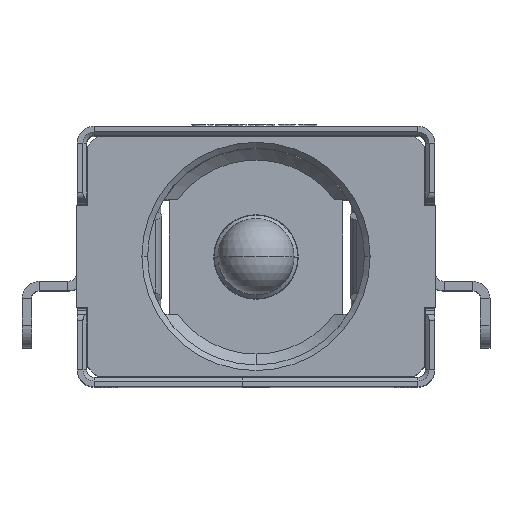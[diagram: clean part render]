
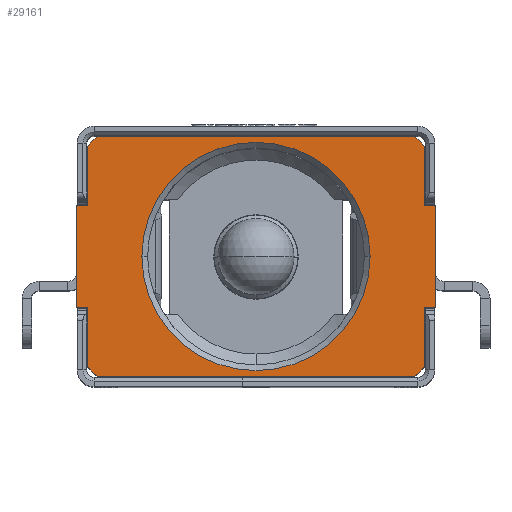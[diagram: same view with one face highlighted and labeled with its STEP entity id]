
A CAD part, top view. The second image highlights one B-rep face of the part: STEP entity #29161.
In plain terms, the highlighted planar face has unit normal (0, 0, 1).
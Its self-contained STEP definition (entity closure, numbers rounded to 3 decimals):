
#243 = VECTOR ( 'NONE', #29874, 1000. ) ;
#244 = ORIENTED_EDGE ( 'NONE', *, *, #4798, .T. ) ;
#558 = EDGE_CURVE ( 'NONE', #5908, #7151, #29264, .T. ) ;
#594 = ORIENTED_EDGE ( 'NONE', *, *, #27109, .F. ) ;
#1053 = VECTOR ( 'NONE', #27258, 1000. ) ;
#1555 = LINE ( 'NONE', #24870, #33075 ) ;
#1866 = DIRECTION ( 'NONE',  ( -0.707, -0.707, 0. ) ) ;
#2493 = DIRECTION ( 'NONE',  ( -0.707, 0.707, 0. ) ) ;
#2607 = CARTESIAN_POINT ( 'NONE',  ( -4.425, -1.35, 14. ) ) ;
#2699 = DIRECTION ( 'NONE',  ( 1., 0., 0. ) ) ;
#3333 = VECTOR ( 'NONE', #1866, 1000. ) ;
#4222 = VERTEX_POINT ( 'NONE', #14461 ) ;
#4388 = DIRECTION ( 'NONE',  ( 1., 0., 0. ) ) ;
#4462 = ORIENTED_EDGE ( 'NONE', *, *, #16440, .T. ) ;
#4562 = CARTESIAN_POINT ( 'NONE',  ( 3., 0., 14. ) ) ;
#4587 = CARTESIAN_POINT ( 'NONE',  ( -4.425, 2.9, 14. ) ) ;
#4764 = EDGE_CURVE ( 'NONE', #16847, #4932, #17666, .T. ) ;
#4798 = EDGE_CURVE ( 'NONE', #33920, #11057, #7460, .T. ) ;
#4838 = EDGE_CURVE ( 'NONE', #4932, #22869, #10730, .T. ) ;
#4932 = VERTEX_POINT ( 'NONE', #28847 ) ;
#5055 = VERTEX_POINT ( 'NONE', #7222 ) ;
#5144 = DIRECTION ( 'NONE',  ( 0., -1., 0. ) ) ;
#5217 = ORIENTED_EDGE ( 'NONE', *, *, #21973, .F. ) ;
#5694 = EDGE_CURVE ( 'NONE', #32092, #8655, #20918, .T. ) ;
#5908 = VERTEX_POINT ( 'NONE', #29703 ) ;
#6009 = LINE ( 'NONE', #16533, #25876 ) ;
#6084 = ORIENTED_EDGE ( 'NONE', *, *, #29990, .T. ) ;
#6436 = DIRECTION ( 'NONE',  ( 0., 0., 1. ) ) ;
#7151 = VERTEX_POINT ( 'NONE', #31233 ) ;
#7158 = LINE ( 'NONE', #14934, #26970 ) ;
#7185 = DIRECTION ( 'NONE',  ( -1., 0., 0. ) ) ;
#7222 = CARTESIAN_POINT ( 'NONE',  ( 4.425, 2.9, 14. ) ) ;
#7460 = LINE ( 'NONE', #28508, #17587 ) ;
#7747 = ORIENTED_EDGE ( 'NONE', *, *, #4764, .T. ) ;
#8021 = LINE ( 'NONE', #31836, #17921 ) ;
#8465 = VERTEX_POINT ( 'NONE', #21071 ) ;
#8655 = VERTEX_POINT ( 'NONE', #8824 ) ;
#8773 = AXIS2_PLACEMENT_3D ( 'NONE', #20352, #18272, #28792 ) ;
#8823 = CARTESIAN_POINT ( 'NONE',  ( -4.725, 1.35, 14. ) ) ;
#8824 = CARTESIAN_POINT ( 'NONE',  ( -4.725, 1.35, 14. ) ) ;
#8938 = DIRECTION ( 'NONE',  ( 0., 0., 1. ) ) ;
#9029 = CARTESIAN_POINT ( 'NONE',  ( 4.425, -2.9, 14. ) ) ;
#9181 = DIRECTION ( 'NONE',  ( 1., 0., 0. ) ) ;
#9291 = ORIENTED_EDGE ( 'NONE', *, *, #14862, .T. ) ;
#9321 = CARTESIAN_POINT ( 'NONE',  ( -4.425, -2.9, 14. ) ) ;
#9467 = ORIENTED_EDGE ( 'NONE', *, *, #30653, .F. ) ;
#10272 = EDGE_CURVE ( 'NONE', #8465, #11841, #11733, .T. ) ;
#10300 = CARTESIAN_POINT ( 'NONE',  ( -4.425, 2.9, 14. ) ) ;
#10383 = DIRECTION ( 'NONE',  ( -1., 0., 0. ) ) ;
#10730 = LINE ( 'NONE', #2607, #1053 ) ;
#10907 = DIRECTION ( 'NONE',  ( -1., 0., 0. ) ) ;
#10940 = VERTEX_POINT ( 'NONE', #29747 ) ;
#10944 = ORIENTED_EDGE ( 'NONE', *, *, #26954, .T. ) ;
#10984 = VERTEX_POINT ( 'NONE', #4562 ) ;
#11057 = VERTEX_POINT ( 'NONE', #21907 ) ;
#11433 = AXIS2_PLACEMENT_3D ( 'NONE', #32588, #8938, #30497 ) ;
#11646 = VECTOR ( 'NONE', #5144, 1000. ) ;
#11715 = ORIENTED_EDGE ( 'NONE', *, *, #22956, .T. ) ;
#11733 = LINE ( 'NONE', #25510, #3333 ) ;
#11841 = VERTEX_POINT ( 'NONE', #21422 ) ;
#11992 = ORIENTED_EDGE ( 'NONE', *, *, #24046, .T. ) ;
#12083 = CARTESIAN_POINT ( 'NONE',  ( -4.725, -1.35, 14. ) ) ;
#12270 = LINE ( 'NONE', #28629, #20066 ) ;
#13087 = DIRECTION ( 'NONE',  ( 0.707, -0.707, 0. ) ) ;
#14433 = EDGE_LOOP ( 'NONE', ( #9291, #18343, #25355, #7747, #30387, #17333, #10944, #22446, #11992, #14519, #6084, #4462, #11715, #9467, #244, #26399 ) ) ;
#14461 = CARTESIAN_POINT ( 'NONE',  ( 4.425, 1.35, 14. ) ) ;
#14519 = ORIENTED_EDGE ( 'NONE', *, *, #558, .T. ) ;
#14761 = DIRECTION ( 'NONE',  ( 0.707, 0.707, 0. ) ) ;
#14779 = CARTESIAN_POINT ( 'NONE',  ( 4.725, 1.35, 14. ) ) ;
#14862 = EDGE_CURVE ( 'NONE', #20288, #32092, #33775, .T. ) ;
#14934 = CARTESIAN_POINT ( 'NONE',  ( 4.725, -1.35, 14. ) ) ;
#15929 = CARTESIAN_POINT ( 'NONE',  ( 4.175, 3.15, 14. ) ) ;
#16440 = EDGE_CURVE ( 'NONE', #20141, #4222, #23382, .T. ) ;
#16533 = CARTESIAN_POINT ( 'NONE',  ( -4.175, -3.15, 14. ) ) ;
#16847 = VERTEX_POINT ( 'NONE', #12083 ) ;
#17333 = ORIENTED_EDGE ( 'NONE', *, *, #32460, .F. ) ;
#17587 = VECTOR ( 'NONE', #10383, 1000. ) ;
#17666 = LINE ( 'NONE', #28196, #31339 ) ;
#17921 = VECTOR ( 'NONE', #2493, 1000. ) ;
#17954 = VECTOR ( 'NONE', #2699, 1000. ) ;
#18016 = LINE ( 'NONE', #4587, #21967 ) ;
#18272 = DIRECTION ( 'NONE',  ( 0., 0., 1. ) ) ;
#18343 = ORIENTED_EDGE ( 'NONE', *, *, #5694, .T. ) ;
#19447 = EDGE_LOOP ( 'NONE', ( #5217, #594 ) ) ;
#19550 = FACE_OUTER_BOUND ( 'NONE', #14433, .T. ) ;
#20066 = VECTOR ( 'NONE', #13087, 1000. ) ;
#20141 = VERTEX_POINT ( 'NONE', #14779 ) ;
#20288 = VERTEX_POINT ( 'NONE', #24047 ) ;
#20352 = CARTESIAN_POINT ( 'NONE',  ( 0., 0., 14. ) ) ;
#20918 = LINE ( 'NONE', #31453, #22426 ) ;
#21016 = VERTEX_POINT ( 'NONE', #31577 ) ;
#21071 = CARTESIAN_POINT ( 'NONE',  ( 4.425, -2.9, 14. ) ) ;
#21312 = CIRCLE ( 'NONE', #11433, 3. ) ;
#21422 = CARTESIAN_POINT ( 'NONE',  ( 4.175, -3.15, 14. ) ) ;
#21907 = CARTESIAN_POINT ( 'NONE',  ( -4.175, 3.15, 14. ) ) ;
#21967 = VECTOR ( 'NONE', #14761, 1000. ) ;
#21973 = EDGE_CURVE ( 'NONE', #10984, #21016, #33022, .T. ) ;
#22426 = VECTOR ( 'NONE', #10907, 1000. ) ;
#22446 = ORIENTED_EDGE ( 'NONE', *, *, #10272, .F. ) ;
#22869 = VERTEX_POINT ( 'NONE', #9321 ) ;
#22892 = CARTESIAN_POINT ( 'NONE',  ( 4.725, 1.35, 14. ) ) ;
#22956 = EDGE_CURVE ( 'NONE', #4222, #5055, #1555, .T. ) ;
#23382 = LINE ( 'NONE', #22892, #33800 ) ;
#23389 = CARTESIAN_POINT ( 'NONE',  ( -4.425, 1.35, 14. ) ) ;
#23630 = AXIS2_PLACEMENT_3D ( 'NONE', #32830, #6436, #9181 ) ;
#23783 = EDGE_CURVE ( 'NONE', #20288, #11057, #18016, .T. ) ;
#24046 = EDGE_CURVE ( 'NONE', #8465, #5908, #29915, .T. ) ;
#24047 = CARTESIAN_POINT ( 'NONE',  ( -4.425, 2.9, 14. ) ) ;
#24870 = CARTESIAN_POINT ( 'NONE',  ( 4.425, 1.35, 14. ) ) ;
#24916 = DIRECTION ( 'NONE',  ( 0., 1., 0. ) ) ;
#25355 = ORIENTED_EDGE ( 'NONE', *, *, #31619, .T. ) ;
#25510 = CARTESIAN_POINT ( 'NONE',  ( 4.425, -2.9, 14. ) ) ;
#25876 = VECTOR ( 'NONE', #26719, 1000. ) ;
#26399 = ORIENTED_EDGE ( 'NONE', *, *, #23783, .F. ) ;
#26719 = DIRECTION ( 'NONE',  ( 1., 0., 0. ) ) ;
#26954 = EDGE_CURVE ( 'NONE', #10940, #11841, #6009, .T. ) ;
#26970 = VECTOR ( 'NONE', #30458, 1000. ) ;
#27109 = EDGE_CURVE ( 'NONE', #21016, #10984, #21312, .T. ) ;
#27258 = DIRECTION ( 'NONE',  ( 0., -1., 0. ) ) ;
#28196 = CARTESIAN_POINT ( 'NONE',  ( -4.725, -1.35, 14. ) ) ;
#28508 = CARTESIAN_POINT ( 'NONE',  ( 4.175, 3.15, 14. ) ) ;
#28629 = CARTESIAN_POINT ( 'NONE',  ( 4.175, 3.15, 14. ) ) ;
#28792 = DIRECTION ( 'NONE',  ( 1., 0., 0. ) ) ;
#28847 = CARTESIAN_POINT ( 'NONE',  ( -4.425, -1.35, 14. ) ) ;
#29161 = ADVANCED_FACE ( 'NONE', ( #33000, #19550 ), #30068, .T. ) ;
#29264 = LINE ( 'NONE', #34109, #17954 ) ;
#29703 = CARTESIAN_POINT ( 'NONE',  ( 4.425, -1.35, 14. ) ) ;
#29747 = CARTESIAN_POINT ( 'NONE',  ( -4.175, -3.15, 14. ) ) ;
#29874 = DIRECTION ( 'NONE',  ( 0., -1., 0. ) ) ;
#29915 = LINE ( 'NONE', #9029, #34090 ) ;
#29990 = EDGE_CURVE ( 'NONE', #7151, #20141, #7158, .T. ) ;
#30068 = PLANE ( 'NONE',  #23630 ) ;
#30387 = ORIENTED_EDGE ( 'NONE', *, *, #4838, .T. ) ;
#30458 = DIRECTION ( 'NONE',  ( 0., 1., 0. ) ) ;
#30497 = DIRECTION ( 'NONE',  ( -1., 0., 0. ) ) ;
#30653 = EDGE_CURVE ( 'NONE', #33920, #5055, #12270, .T. ) ;
#31233 = CARTESIAN_POINT ( 'NONE',  ( 4.725, -1.35, 14. ) ) ;
#31339 = VECTOR ( 'NONE', #4388, 1000. ) ;
#31453 = CARTESIAN_POINT ( 'NONE',  ( -4.425, 1.35, 14. ) ) ;
#31577 = CARTESIAN_POINT ( 'NONE',  ( -3., 0., 14. ) ) ;
#31619 = EDGE_CURVE ( 'NONE', #8655, #16847, #32465, .T. ) ;
#31836 = CARTESIAN_POINT ( 'NONE',  ( -4.175, -3.15, 14. ) ) ;
#32092 = VERTEX_POINT ( 'NONE', #23389 ) ;
#32460 = EDGE_CURVE ( 'NONE', #10940, #22869, #8021, .T. ) ;
#32465 = LINE ( 'NONE', #8823, #243 ) ;
#32588 = CARTESIAN_POINT ( 'NONE',  ( 0., 0., 14. ) ) ;
#32830 = CARTESIAN_POINT ( 'NONE',  ( 0., 0., 14. ) ) ;
#33000 = FACE_BOUND ( 'NONE', #19447, .T. ) ;
#33022 = CIRCLE ( 'NONE', #8773, 3. ) ;
#33075 = VECTOR ( 'NONE', #33303, 1000. ) ;
#33303 = DIRECTION ( 'NONE',  ( 0., 1., 0. ) ) ;
#33775 = LINE ( 'NONE', #10300, #11646 ) ;
#33800 = VECTOR ( 'NONE', #7185, 1000. ) ;
#33920 = VERTEX_POINT ( 'NONE', #15929 ) ;
#34090 = VECTOR ( 'NONE', #24916, 1000. ) ;
#34109 = CARTESIAN_POINT ( 'NONE',  ( 4.425, -1.35, 14. ) ) ;
